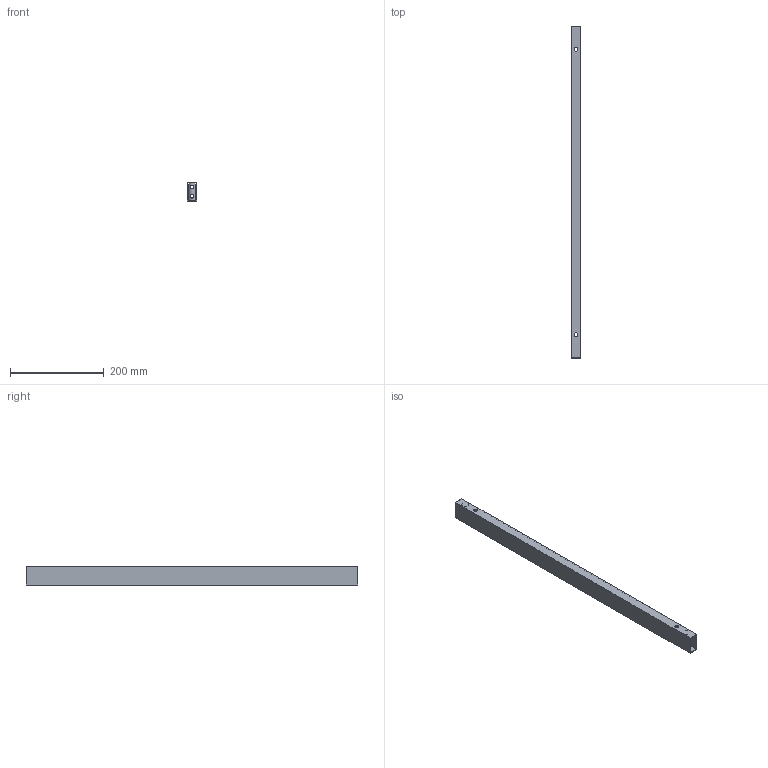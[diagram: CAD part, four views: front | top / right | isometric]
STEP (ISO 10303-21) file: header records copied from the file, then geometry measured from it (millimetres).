
FILE_DESCRIPTION( ( 'STEP AP214' ), '1' );
FILE_NAME( 'D:/Yug/2021/Delta/desk_and_office_organisation/QC/46009.stp', '2021-01-22T12:16:18', ( '' ), ( '' ), ' ', 'PARTsolutions', ' ' );
FILE_SCHEMA( ( 'AUTOMOTIVE_DESIGN { 1 0 10303 214 1 1 1 1 }' ) );
Length unit declared in the file: millimetre
Products named in the file (1): _46009
Bounding box: 20 x 710 x 41.5 mm (x, y, z)
Volume: 130873.3 mm3; surface area: 165693.7 mm2
Topology: 1 solids, 1 shells, 24 faces, 62 edges, 42 vertices
Faces by surface type: cylinder 12, plane 12
Full cylindrical faces by diameter (mm): 8 x4, 8.3 x4, 12.5 x2, 14.5 x2
Entity records: 1448 total; most frequent: CARTESIAN_POINT 665, DIRECTION 106, ORIENTED_EDGE 96, EDGE_LOOP 60, EDGE_CURVE 48, AXIS2_PLACEMENT_3D 41, VERTEX_POINT 40, FACE_OUTER_BOUND 36
